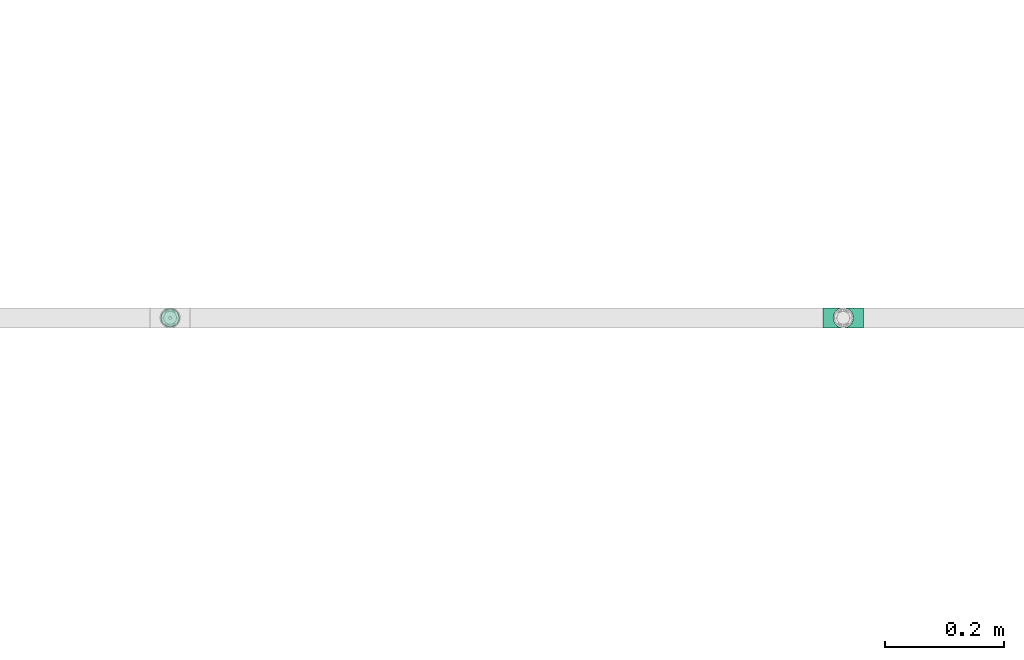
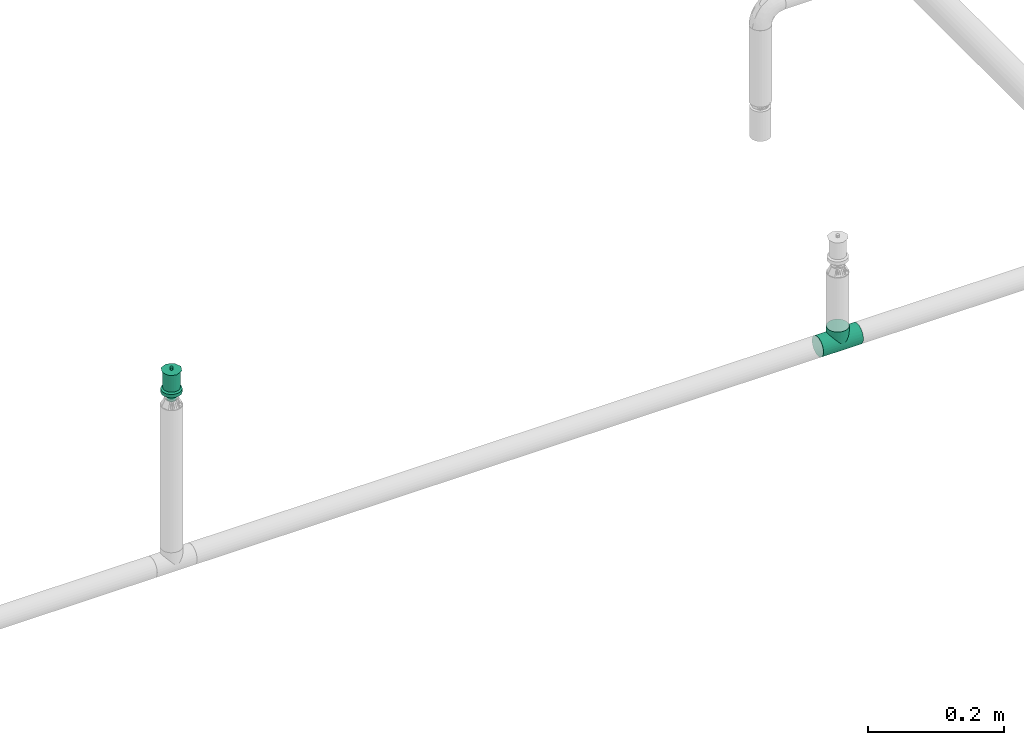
# One storey, part 30 of 157: 1 flow fitting, 1 flow terminal.
"""IFC2X3 building model written with IfcOpenShell, lengths in millimetres."""

import ifcopenshell
import ifcopenshell.guid

model = None  # the IFC model being written
_history = None  # IfcOwnerHistory: only IFC2X3 demands one
_inside = {}  # id of a spatial element -> (the spatial element, [elements in it])
_under = {}  # id of a project, library or spatial element -> (it, [spatial elements below it])
_declared = {}  # id of a project -> (the project, [libraries it declares])
_typed = {}  # id of a type object -> (the type object, [elements of that type])
_made_of = {}  # id of a material, layer set ... -> (it, [elements and type objects made of it])


def new_model(schema):
    """Start an empty IFC model of exactly this schema.

    Asked for "IFC4X3", IfcOpenShell would pick the latest addendum, in which some entities
    have other attributes; the version numbers below select the first issue.
    IFC2X3 requires an IfcOwnerHistory on every rooted entity: one is made here for all.
    """
    global model, _history
    if schema == "IFC4X3":
        model = ifcopenshell.file(schema_version=(4, 3, 0, 0))
    else:
        model = ifcopenshell.file(schema=schema)
    _inside.clear()
    _under.clear()
    _declared.clear()
    _typed.clear()
    _made_of.clear()
    _history = None
    if model.schema == "IFC2X3":
        org = make("IfcOrganization", Name="unknown")
        user = make(
            "IfcPersonAndOrganization",
            ThePerson=make("IfcPerson", FamilyName="unknown"),
            TheOrganization=org,
        )
        app = make(
            "IfcApplication",
            ApplicationDeveloper=org,
            Version="unknown",
            ApplicationFullName="unknown",
            ApplicationIdentifier="unknown",
        )
        _history = make(
            "IfcOwnerHistory",
            OwningUser=user,
            OwningApplication=app,
            ChangeAction="ADDED",
            CreationDate=0,
        )
    return model


def make(cls, **values):
    """One entity of the class cls with the attributes given. An attribute that is None is left unset."""
    return model.create_entity(
        cls, **{name: value for name, value in values.items() if value is not None}
    )


def entity(cls, *values):
    """Any entity or typed value of the class cls, its attributes in the order of the schema. None: left unset."""
    e = model.create_entity(cls)
    for i, value in enumerate(values):
        if value is not None:
            e[i] = value
    return e


def rooted(cls, **values):
    """An entity with a GlobalId (a new one), such as an element, a storey or a relation."""
    return make(cls, GlobalId=ifcopenshell.guid.new(), OwnerHistory=_history, **values)


def si_unit(unit_type, name, prefix=None):
    """IfcSIUnit, for example si_unit("LENGTHUNIT", "METRE", prefix="MILLI")."""
    return make("IfcSIUnit", UnitType=unit_type, Prefix=prefix, Name=name)


def converted_unit(unit_type, name, factor, base, dimensions=None, offset=None):
    """IfcConversionBasedUnit, such as the inch: factor (a typed value) times the base unit."""
    return make(
        "IfcConversionBasedUnit"
        if offset is None
        else "IfcConversionBasedUnitWithOffset",
        ConversionOffset=offset,
        Dimensions=None
        if dimensions is None
        else entity("IfcDimensionalExponents", *dimensions),
        UnitType=unit_type,
        Name=name,
        ConversionFactor=make(
            "IfcMeasureWithUnit", ValueComponent=factor, UnitComponent=base
        ),
    )


def derived_unit(unit_type, elements):
    """IfcDerivedUnit: a product of units, each with its exponent."""
    return make(
        "IfcDerivedUnit",
        Elements=[
            make("IfcDerivedUnitElement", Unit=unit, Exponent=power)
            for unit, power in elements
        ],
        UnitType=unit_type,
    )


def assignment(units):
    """IfcUnitAssignment: the units of a project."""
    return None if units is None else make("IfcUnitAssignment", Units=units)


def point(xyz):
    """IfcCartesianPoint."""
    return None if xyz is None else make("IfcCartesianPoint", Coordinates=xyz)


def direction(xyz):
    """IfcDirection."""
    return None if xyz is None else make("IfcDirection", DirectionRatios=xyz)


def frame(location, z_axis=None, x_axis=None):
    """IfcAxis2Placement3D, a coordinate frame: its origin and axes. An axis left out is left unset."""
    return make(
        "IfcAxis2Placement3D",
        Location=point(location),
        Axis=direction(z_axis),
        RefDirection=direction(x_axis),
    )


def origin_with_axes():
    """The frame at (0, 0, 0) with the z axis (0, 0, 1) and the x axis (1, 0, 0) written out."""
    return frame((0.0, 0.0, 0.0), z_axis=(0.0, 0.0, 1.0), x_axis=(1.0, 0.0, 0.0))


def place(relative_to, where):
    """IfcLocalPlacement: puts the frame where relative to a parent placement (None: the world)."""
    return make(
        "IfcLocalPlacement", PlacementRelTo=relative_to, RelativePlacement=where
    )


def context(
    kind, dimensions, precision=None, world=None, true_north=None, identifier=None
):
    """IfcGeometricRepresentationContext, for example the 3D "Model" context."""
    return make(
        "IfcGeometricRepresentationContext",
        ContextIdentifier=identifier,
        ContextType=kind,
        CoordinateSpaceDimension=dimensions,
        Precision=precision,
        WorldCoordinateSystem=world,
        TrueNorth=true_north,
    )


def subcontext(parent, identifier, kind, view, scale=None):
    """IfcGeometricRepresentationSubContext, for example "Body" below "Model"."""
    return make(
        "IfcGeometricRepresentationSubContext",
        ContextIdentifier=identifier,
        ContextType=kind,
        ParentContext=parent,
        TargetScale=scale,
        TargetView=view,
    )


def project(units=None, contexts=None):
    """IfcProject with its units and contexts."""
    return rooted(
        "IfcProject",
        Name="project",
        RepresentationContexts=contexts,
        UnitsInContext=assignment(units),
    )


def spatial(cls, under=None, at=None, **own):
    """A site, building, storey or space (cls), placed at a placement, below another one or the project."""
    s = rooted(cls, ObjectPlacement=at, **own)
    if under is not None:
        _under.setdefault(under.id(), (under, []))[1].append(s)
    return s


def faces_of(points, faces, orient=None, outer=None):
    """IfcFace entities. A face is a list of loops; a loop is a list of indices into points, from 0.

    orient and outer hold one flag for each loop. By default every Orientation is true, the
    first loop of a face is its IfcFaceOuterBound and the others are IfcFaceBound.
    """
    made = []
    for i, loops in enumerate(faces):
        bounds = []
        for j, loop in enumerate(loops):
            is_outer = j == 0 if outer is None else outer[i][j]
            bounds.append(
                make(
                    "IfcFaceOuterBound" if is_outer else "IfcFaceBound",
                    Bound=make("IfcPolyLoop", Polygon=[points[k] for k in loop]),
                    Orientation=True if orient is None else orient[i][j],
                )
            )
        made.append(make("IfcFace", Bounds=bounds))
    return made


def open_shell(faces, orient=None, outer=None):
    """The faces of one IfcOpenShell. surface_model builds it on its shared points."""
    return ("IfcOpenShell", faces, orient, outer)


def surface_model(cls, points, shells):
    """IfcFaceBasedSurfaceModel or IfcShellBasedSurfaceModel (cls): surfaces that need not close."""
    shared = [point(p) for p in points]
    made = [make(c, CfsFaces=faces_of(shared, fs, o, b)) for c, fs, o, b in shells]
    if cls == "IfcFaceBasedSurfaceModel":
        return make(cls, FbsmFaces=made)
    return make(cls, SbsmBoundary=made)


def shape(context_of_items, identifier, shape_type, items):
    """IfcShapeRepresentation: the items that make up one representation, for example the "Body"."""
    return make(
        "IfcShapeRepresentation",
        ContextOfItems=context_of_items,
        RepresentationIdentifier=identifier,
        RepresentationType=shape_type,
        Items=items,
    )


def source(mapping_origin, context_of_items, identifier, shape_type, items):
    """IfcRepresentationMap: a shape defined once, which mapped items show again and again."""
    return make(
        "IfcRepresentationMap",
        MappingOrigin=mapping_origin,
        MappedRepresentation=shape(context_of_items, identifier, shape_type, items),
    )


def transform(
    local_origin,
    x_axis=None,
    y_axis=None,
    z_axis=None,
    scale=None,
    scale2=None,
    scale3=None,
    uniform=True,
):
    """IfcCartesianTransformationOperator3D, or its non-uniform kind. x_axis, y_axis, z_axis: its Axis1, 2, 3."""
    if uniform:
        return make(
            "IfcCartesianTransformationOperator3D",
            Axis1=direction(x_axis),
            Axis2=direction(y_axis),
            LocalOrigin=point(local_origin),
            Scale=scale,
            Axis3=direction(z_axis),
        )
    return make(
        "IfcCartesianTransformationOperator3DnonUniform",
        Axis1=direction(x_axis),
        Axis2=direction(y_axis),
        LocalOrigin=point(local_origin),
        Scale=scale,
        Axis3=direction(z_axis),
        Scale2=scale2,
        Scale3=scale3,
    )


def mapped(mapping_source, mapping_target):
    """IfcMappedItem: shows the shape of a source again, moved by a transform."""
    return make(
        "IfcMappedItem", MappingSource=mapping_source, MappingTarget=mapping_target
    )


def made_of(thing, what):
    """Note that an element or type object is made of a material, layer set ...; save() writes the relation."""
    if what is not None:
        _made_of.setdefault(what.id(), (what, []))[1].append(thing)
    return thing


def type_object(cls, material=None, **own):
    """A type object (cls), such as IfcWallType, which elements share."""
    return made_of(rooted(cls, **own), material)


def element(
    cls,
    number,
    at=None,
    inside=None,
    cuts=None,
    type_object=None,
    material=None,
    context=None,
    identifier="Body",
    shape_type=None,
    held_by="IfcProductDefinitionShape",
    body=None,
    shapes=None,
    **own,
):
    """One element of the class cls, such as IfcWall. Its Tag is "e" and its number.

    at: its placement. inside: the storey or other place that contains it. cuts: it is an
    opening in that element (IfcRelVoidsElement). A single representation is given by context,
    identifier, shape_type and body (its items); several are given by shapes. held_by: the class
    of the entity that holds the representations. save() writes the other relations.
    """
    e = rooted(cls, Tag="e%d" % number, ObjectPlacement=at, **own)
    if body is not None:
        shapes = [shape(context, identifier, shape_type, body)]
    if shapes is not None:
        e.Representation = make(held_by, Representations=shapes)
    if inside is not None:
        _inside.setdefault(inside.id(), (inside, []))[1].append(e)
    if cuts is not None:
        rooted(
            "IfcRelVoidsElement", RelatingBuildingElement=cuts, RelatedOpeningElement=e
        )
    if type_object is not None:
        _typed.setdefault(type_object.id(), (type_object, []))[1].append(e)
    return made_of(e, material)


def aggregate(whole, parts):
    """IfcRelAggregates: a whole, such as a stair, and the parts it consists of."""
    return rooted("IfcRelAggregates", RelatingObject=whole, RelatedObjects=parts)


def save(model, path):
    """Write the relations noted so far, then the file.

    IfcRelAggregates (storeys below a building ...), IfcRelContainedInSpatialStructure (elements
    in a storey), IfcRelDefinesByType, IfcRelAssociatesMaterial and IfcRelDeclares: one each for
    every whole, place, type object, material and project.
    """
    for whole, parts in _under.values():
        aggregate(whole, parts)
    for where, things in _inside.values():
        rooted(
            "IfcRelContainedInSpatialStructure",
            RelatedElements=things,
            RelatingStructure=where,
        )
    for kind, things in _typed.values():
        rooted("IfcRelDefinesByType", RelatedObjects=things, RelatingType=kind)
    for what, things in _made_of.values():
        rooted("IfcRelAssociatesMaterial", RelatedObjects=things, RelatingMaterial=what)
    for by, libraries in _declared.values():
        rooted("IfcRelDeclares", RelatingContext=by, RelatedDefinitions=libraries)
    model.write(path)


model = new_model("IFC2X3")

# Units and contexts
model_context = context("Model", 3, precision=0.01, world=frame((0.0, 4.29681676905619e-09, 0.0)), true_north=direction((4.01073788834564e-13, 1.0)))
plan_context = context("Plan", 3, precision=0.01, world=frame((0.0, 4.29681676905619e-09, 0.0)), true_north=direction((4.01073788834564e-13, 1.0)))
body_context = subcontext(model_context, "Body", "Model", "MODEL_VIEW")
ifc_project = project(units=[converted_unit("PLANEANGLEUNIT", "DEGREE", entity("IfcPositiveLengthMeasure", 0.0174532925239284), si_unit("PLANEANGLEUNIT", "RADIAN"), dimensions=[0, 0, 0, 0, 0, 0, 0]), si_unit("AREAUNIT", "SQUARE_METRE"), si_unit("LENGTHUNIT", "METRE", prefix="MILLI"), si_unit("MASSUNIT", "GRAM", prefix="KILO"), si_unit("POWERUNIT", "WATT"), si_unit("PRESSUREUNIT", "PASCAL"), si_unit("FORCEUNIT", "NEWTON", prefix="KILO"), si_unit("ELECTRICCURRENTUNIT", "AMPERE"), si_unit("THERMODYNAMICTEMPERATUREUNIT", "DEGREE_CELSIUS"), si_unit("TIMEUNIT", "SECOND"), si_unit("VOLUMEUNIT", "CUBIC_METRE"), derived_unit("LINEARVELOCITYUNIT", [(si_unit("LENGTHUNIT", "METRE"), 1), (si_unit("TIMEUNIT", "SECOND"), -1)]), derived_unit("VOLUMETRICFLOWRATEUNIT", [(si_unit("VOLUMEUNIT", "CUBIC_METRE"), 1), (si_unit("TIMEUNIT", "SECOND"), -1)]), derived_unit("THERMALTRANSMITTANCEUNIT", [(si_unit("POWERUNIT", "WATT"), 1), (si_unit("THERMODYNAMICTEMPERATUREUNIT", "KELVIN"), -1), (si_unit("AREAUNIT", "SQUARE_METRE"), -1)])], contexts=[model_context, plan_context])

# Site, building, storey
site_placement = place(None, frame((0.0, -4.29681676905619e-09, 0.0), z_axis=(0.0, 0.0, 1.0), x_axis=(1.0, 0.0, 0.0)))
site = spatial("IfcSite", under=ifc_project, at=site_placement, CompositionType="ELEMENT")
building_placement = place(site_placement, frame((0.0, 4.29681676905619e-09, 0.0), z_axis=(0.0, 0.0, 1.0), x_axis=(1.0, 0.0, 0.0)))
building = spatial("IfcBuilding", under=site, at=building_placement, Name="mc-building", CompositionType="ELEMENT")
storey_placement = place(building_placement, frame((0.0, 0.0, 204000.0), z_axis=(0.0, 0.0, 1.0), x_axis=(1.0, 0.0, 0.0)))
storey = spatial("IfcBuildingStorey", under=building, at=storey_placement, Name="Nivå D", CompositionType="ELEMENT", Elevation=204000.0)

# Flow fitting
pipe_fitting_type = type_object("IfcPipeFittingType", Name="magi_pipe_fe_tee_centric_90_NOR", PredefinedType="JUNCTION")
shared_shape_1 = source(origin_with_axes(), body_context, "Body", "SurfaceModel", [
    surface_model("IfcShellBasedSurfaceModel", [(-33.8, 4.37404, -16.32415), (-33.8, 0.0, -16.9), (-33.8, 16.32415, -4.37404), (-33.8, 8.45, -14.63583), (-33.8, 11.9501, -11.9501), (-33.8, 14.63583, -8.45), (-33.8, -16.9, 0.0), (-33.8, -11.9501, -11.9501), (-33.8, -14.63583, -8.45), (-33.8, -8.45, -14.63583), (-33.8, -4.37404, -16.32415), (-33.8, -16.32415, -4.37404), (-33.8, 14.63583, 8.45), (-33.8, 16.32415, 4.37404), (-33.8, -8.45, 14.63583), (-33.8, 8.45, 14.63583), (-33.8, 11.9501, 11.9501), (-33.8, 4.37404, 16.32415), (-33.8, 0.0, 16.9), (-33.8, -11.9501, 11.9501), (-33.8, -14.63583, 8.45), (-33.8, -16.32415, 4.37404), (-33.8, -4.37404, 16.32415), (-33.8, 16.9, 0.0), (33.8, 4.37404, -16.32415), (33.8, -16.9, 0.0), (33.8, 0.0, -16.9), (33.8, 14.63583, -8.45), (33.8, 8.45, -14.63583), (33.8, 16.32415, -4.37404), (33.8, 11.9501, -11.9501), (33.8, -16.32415, 4.37404), (33.8, -8.45, -14.63583), (33.8, -4.37404, -16.32415), (33.8, -11.9501, -11.9501), (33.8, -14.63583, -8.45), (33.8, -16.32415, -4.37404), (33.8, 16.32415, 4.37404), (33.8, 8.45, 14.63583), (33.8, 14.63583, 8.45), (33.8, 11.9501, 11.9501), (33.8, -8.45, 14.63583), (33.8, 4.37404, 16.32415), (33.8, -14.63583, 8.45), (33.8, -11.9501, 11.9501), (33.8, 0.0, 16.9), (33.8, -4.37404, 16.32415), (33.8, 16.9, 0.0), (16.28698, -16.28698, 4.51047), (16.9, -16.9, 0.0), (14.62704, -14.62704, 8.4652), (9.47213, -9.47213, 13.99602), (12.26343, -12.26343, 11.62834), (-16.9, -16.9, 0.0), (-16.28698, -16.28698, 4.51047), (-14.62704, -14.62704, 8.4652), (-12.26343, -12.26343, 11.62834), (-9.47213, -9.47213, 13.99602), (-6.42894, -6.42894, 15.62942), (6.42894, -6.42894, 15.62942), (3.24522, -3.24522, 16.58549), (0.0, 0.0, 16.9), (-3.24522, -3.24522, 16.58549), (3.24522, -3.24522, -16.58549), (0.0, 0.0, -16.9), (-3.24522, -3.24522, -16.58549), (-6.42894, -6.42894, -15.62942), (6.42894, -6.42894, -15.62942), (9.47213, -9.47213, -13.99602), (12.26343, -12.26343, -11.62834), (14.62704, -14.62704, -8.4652), (16.28698, -16.28698, -4.51047), (-9.47213, -9.47213, -13.99602), (-12.26343, -12.26343, -11.62834), (-16.28698, -16.28698, -4.51047), (-14.62704, -14.62704, -8.4652), (4.37404, -25.35, -16.32415), (-16.9, -25.35, 0.0), (0.0, -25.35, -16.9), (14.63583, -25.35, -8.45), (8.45, -25.35, -14.63583), (16.32415, -25.35, -4.37404), (11.9501, -25.35, -11.9501), (-11.9501, -25.35, -11.9501), (-8.45, -25.35, -14.63583), (-4.37404, -25.35, -16.32415), (-14.63583, -25.35, -8.45), (-16.32415, -25.35, -4.37404), (16.9, -25.35, 0.0), (8.45, -25.35, 14.63583), (16.32415, -25.35, 4.37404), (14.63583, -25.35, 8.45), (-8.45, -25.35, 14.63583), (11.9501, -25.35, 11.9501), (4.37404, -25.35, 16.32415), (-16.32415, -25.35, 4.37404), (-11.9501, -25.35, 11.9501), (-14.63583, -25.35, 8.45), (0.0, -25.35, 16.9), (-4.37404, -25.35, 16.32415)], [open_shell([[[0, 1, 2]], [[3, 0, 4]], [[0, 2, 5]], [[4, 0, 5]], [[6, 2, 1]], [[7, 8, 9]], [[1, 10, 9]], [[11, 6, 8]], [[1, 9, 8]], [[1, 8, 6]], [[6, 12, 2]], [[12, 13, 2]], [[14, 12, 6]], [[12, 14, 15]], [[16, 12, 15]], [[17, 15, 18]], [[19, 14, 20]], [[21, 20, 14]], [[22, 18, 14]], [[14, 6, 21]], [[14, 18, 15]], [[23, 2, 13]], [[24, 25, 26]], [[27, 24, 28]], [[27, 29, 24]], [[27, 28, 30]], [[31, 25, 24]], [[26, 32, 33]], [[26, 34, 32]], [[35, 25, 36]], [[35, 34, 26]], [[25, 35, 26]], [[24, 29, 31]], [[29, 37, 38]], [[38, 37, 39]], [[38, 31, 29]], [[38, 39, 40]], [[41, 38, 42]], [[43, 41, 44]], [[41, 43, 31]], [[41, 45, 46]], [[41, 31, 38]], [[42, 45, 41]], [[29, 47, 37]], [[31, 43, 48]], [[25, 31, 49]], [[49, 31, 48]], [[43, 50, 48]], [[44, 41, 51]], [[50, 43, 52]], [[51, 52, 44]], [[52, 43, 44]], [[53, 54, 21]], [[53, 21, 6]], [[21, 54, 20]], [[54, 55, 20]], [[56, 57, 19]], [[19, 20, 56]], [[19, 57, 14]], [[56, 20, 55]], [[14, 57, 58]], [[51, 41, 59]], [[60, 45, 61]], [[59, 46, 60]], [[46, 59, 41]], [[60, 46, 45]], [[61, 45, 42]], [[39, 37, 13]], [[16, 38, 40]], [[12, 40, 39]], [[42, 38, 15]], [[23, 37, 47]], [[62, 61, 18]], [[62, 22, 58]], [[22, 62, 18]], [[58, 22, 14]], [[61, 17, 18]], [[42, 17, 61]], [[15, 17, 42]], [[15, 38, 16]], [[12, 16, 40]], [[13, 12, 39]], [[37, 23, 13]], [[5, 27, 30]], [[23, 47, 29]], [[30, 28, 3]], [[27, 2, 29]], [[26, 33, 63]], [[26, 64, 24]], [[64, 26, 63]], [[28, 24, 0]], [[64, 0, 24]], [[4, 30, 3]], [[2, 27, 5]], [[5, 30, 4]], [[2, 23, 29]], [[65, 66, 10]], [[1, 0, 64]], [[1, 65, 10]], [[66, 9, 10]], [[0, 3, 28]], [[1, 64, 65]], [[63, 33, 67]], [[32, 34, 68]], [[69, 68, 34]], [[35, 70, 69]], [[69, 34, 35]], [[32, 68, 67]], [[36, 25, 49]], [[36, 71, 35]], [[71, 36, 49]], [[35, 71, 70]], [[72, 9, 66]], [[72, 7, 9]], [[7, 72, 73]], [[7, 73, 8]], [[74, 53, 11]], [[75, 74, 8]], [[74, 11, 8]], [[11, 53, 6]], [[75, 8, 73]], [[32, 67, 33]], [[76, 77, 78]], [[79, 76, 80]], [[79, 81, 76]], [[79, 80, 82]], [[77, 76, 81]], [[78, 83, 84]], [[84, 85, 78]], [[86, 77, 87]], [[83, 78, 86]], [[77, 86, 78]], [[81, 88, 77]], [[89, 88, 90]], [[89, 90, 91]], [[92, 77, 89]], [[89, 91, 93]], [[92, 89, 94]], [[95, 96, 97]], [[96, 95, 92]], [[92, 98, 99]], [[95, 77, 92]], [[94, 98, 92]], [[89, 77, 88]], [[77, 95, 53]], [[54, 53, 95]], [[97, 96, 56]], [[96, 92, 57]], [[95, 97, 54]], [[58, 92, 99]], [[55, 54, 97]], [[56, 55, 97]], [[58, 57, 92]], [[98, 61, 62]], [[58, 99, 62]], [[56, 96, 57]], [[62, 99, 98]], [[94, 60, 98]], [[89, 59, 94]], [[91, 90, 48]], [[52, 93, 91]], [[93, 51, 89]], [[49, 90, 88]], [[59, 60, 94]], [[51, 59, 89]], [[49, 48, 90]], [[50, 52, 91]], [[48, 50, 91]], [[51, 93, 52]], [[98, 60, 61]], [[88, 81, 49]], [[71, 49, 81]], [[79, 82, 69]], [[82, 80, 68]], [[81, 79, 71]], [[67, 80, 76]], [[70, 71, 79]], [[69, 70, 79]], [[67, 68, 80]], [[78, 64, 63]], [[67, 76, 63]], [[69, 82, 68]], [[63, 76, 78]], [[85, 65, 78]], [[84, 66, 85]], [[86, 87, 74]], [[86, 73, 83]], [[72, 84, 83]], [[53, 87, 77]], [[66, 65, 85]], [[72, 66, 84]], [[53, 74, 87]], [[75, 73, 86]], [[74, 75, 86]], [[72, 83, 73]], [[78, 65, 64]]])]),
])
flow_fitting_placement = place(storey_placement, frame((530770.35, 404401.65, 2880.0), z_axis=(0.0, -1.0, 0.0), x_axis=(-1.0, 0.0, 0.0)))
element("IfcFlowFitting", 1, at=flow_fitting_placement, inside=storey, type_object=pipe_fitting_type, Name="magi_pipe_fe_tee_centric_90_NOR", context=body_context, shape_type="MappedRepresentation", body=[
    mapped(shared_shape_1, transform((0.0, 0.0, 0.0), scale=1.0)),
])

# Flow terminal
fire_suppression_terminal_type = type_object("IfcFireSuppressionTerminalType", Name="68DGR-STD-STÅENDE", PredefinedType="NOTDEFINED")
shared_shape_2 = source(origin_with_axes(), body_context, "Body", "SurfaceModel", [
    surface_model("IfcShellBasedSurfaceModel", [(3.36465, -12.55704, 51.0), (6.5, -11.25833, 51.0), (9.19239, -9.19239, 51.0), (12.55704, -3.36465, 51.0), (-11.25833, -6.5, 51.0), (11.25833, -6.5, 51.0), (-13.0, 0.0, 51.0), (0.0, -13.0, 51.0), (-6.5, -11.25833, 51.0), (-3.36465, -12.55704, 51.0), (-9.19239, -9.19239, 51.0), (-12.55704, -3.36465, 51.0), (13.0, 0.0, 51.0), (12.55704, 3.36465, 51.0), (11.25833, 6.5, 51.0), (9.19239, 9.19239, 51.0), (6.5, 11.25833, 51.0), (3.36465, 12.55704, 51.0), (0.0, 13.0, 51.0), (-3.36465, 12.55704, 51.0), (-12.55704, 3.36465, 51.0), (-9.19239, 9.19239, 51.0), (-11.25833, 6.5, 51.0), (-6.5, 11.25833, 51.0), (0.0, 13.0, 21.14766), (3.36465, 12.55704, 21.14766), (6.5, 11.25833, 21.14766), (-3.36465, 12.55704, 21.14766), (9.19239, 9.19239, 21.14766), (11.25833, 6.5, 21.14766), (12.55704, 3.36465, 21.14766), (-12.55704, 3.36465, 21.14766), (-11.25833, -6.5, 21.14766), (-9.19239, 9.19239, 21.14766), (-6.5, 11.25833, 21.14766), (-11.25833, 6.5, 21.14766), (-13.0, 0.0, 21.14766), (12.55704, -3.36465, 21.14766), (9.19239, -9.19239, 21.14766), (11.25833, -6.5, 21.14766), (6.5, -11.25833, 21.14766), (3.36465, -12.55704, 21.14766), (-6.5, -11.25833, 21.14766), (-9.19239, -9.19239, 21.14766), (-12.55704, -3.36465, 21.14766), (0.0, -13.0, 21.14766), (-3.36465, -12.55704, 21.14766), (13.0, 0.0, 21.14766), (7.24444, -1.94114, 0.1), (1.94114, -7.24444, 0.1), (3.75, -6.49519, 0.1), (5.3033, -5.3033, 0.1), (-5.3033, -5.3033, 0.1), (6.49519, -3.75, 0.1), (5.3033, 5.3033, 0.1), (0.0, -7.5, 0.1), (-3.75, -6.49519, 0.1), (-1.94114, -7.24444, 0.1), (-7.24444, -1.94114, 0.1), (-6.49519, -3.75, 0.1), (-7.24444, 1.94114, 0.1), (7.5, 0.0, 0.1), (6.49519, 3.75, 0.1), (-6.49519, 3.75, 0.1), (1.94114, 7.24444, 0.1), (0.0, 7.5, 0.1), (3.75, 6.49519, 0.1), (-7.5, 0.0, 0.1), (-5.3033, 5.3033, 0.1), (-1.94114, 7.24444, 0.1), (-3.75, 6.49519, 0.1), (7.24444, 1.94114, 0.1), (1.94114, 7.24444, -0.1), (-6.49519, 3.75, -0.1), (0.0, 7.5, -0.1), (5.3033, 5.3033, -0.1), (3.75, 6.49519, -0.1), (6.49519, 3.75, -0.1), (7.24444, 1.94114, -0.1), (-1.94114, 7.24444, -0.1), (-5.3033, 5.3033, -0.1), (-3.75, 6.49519, -0.1), (-7.24444, 1.94114, -0.1), (-7.24444, -1.94114, -0.1), (-7.5, 0.0, -0.1), (7.5, 0.0, -0.1), (7.24444, -1.94114, -0.1), (-5.3033, -5.3033, -0.1), (1.94114, -7.24444, -0.1), (6.49519, -3.75, -0.1), (5.3033, -5.3033, -0.1), (3.75, -6.49519, -0.1), (-6.49519, -3.75, -0.1), (-3.75, -6.49519, -0.1), (0.0, -7.5, -0.1), (-1.94114, -7.24444, -0.1), (0.0, -2.5, 51.0), (-2.5, 0.0, 51.0), (0.0, 2.5, 51.0), (2.5, 0.0, 51.0), (0.0, -16.0, 53.0), (11.31371, -11.31371, 53.0), (-11.31371, -11.31371, 53.0), (-16.0, 0.0, 53.0), (16.0, 0.0, 53.0), (11.31371, 11.31371, 53.0), (0.0, 16.0, 53.0), (-11.31371, 11.31371, 53.0), (1.25, -2.16506, 57.0), (0.0, -2.5, 57.0), (0.64705, -2.41481, 57.0), (2.41481, -0.64705, 57.0), (1.76777, -1.76777, 57.0), (-2.41481, -0.64705, 57.0), (-2.5, 0.0, 57.0), (2.16506, -1.25, 57.0), (-1.25, -2.16506, 57.0), (-0.64705, -2.41481, 57.0), (-1.76777, -1.76777, 57.0), (-2.16506, -1.25, 57.0), (2.5, 0.0, 57.0), (2.41481, 0.64705, 57.0), (2.16506, 1.25, 57.0), (1.76777, 1.76777, 57.0), (0.64705, 2.41481, 57.0), (1.25, 2.16506, 57.0), (-1.76777, 1.76777, 57.0), (0.0, 2.5, 57.0), (-2.16506, 1.25, 57.0), (-2.41481, 0.64705, 57.0), (-0.64705, 2.41481, 57.0), (-1.25, 2.16506, 57.0), (1.25, 2.16506, 51.0), (1.76777, 1.76777, 51.0), (1.15, 1.99186, 51.0), (0.59528, 2.22163, 51.0), (0.64705, 2.41481, 51.0), (0.0, 2.3, 51.0), (1.62635, 1.62635, 51.0), (2.41481, 0.64705, 51.0), (2.3, 0.0, 51.0), (2.22163, 0.59528, 51.0), (2.16506, 1.25, 51.0), (1.99186, 1.15, 51.0), (-0.59528, 2.22163, 51.0), (-0.64705, 2.41481, 51.0), (-1.15, 1.99186, 51.0), (-1.76777, 1.76777, 51.0), (-1.25, 2.16506, 51.0), (-1.62635, 1.62635, 51.0), (-1.99186, 1.15, 51.0), (-2.16506, 1.25, 51.0), (-2.22163, 0.59528, 51.0), (-2.41481, 0.64705, 51.0), (-2.3, 0.0, 51.0), (2.41481, -0.64705, 51.0), (2.22163, -0.59528, 51.0), (1.99186, -1.15, 51.0), (2.16506, -1.25, 51.0), (1.62635, -1.62635, 51.0), (1.76777, -1.76777, 51.0), (1.25, -2.16506, 51.0), (1.15, -1.99186, 51.0), (0.59528, -2.22163, 51.0), (0.64705, -2.41481, 51.0), (0.0, -2.3, 51.0), (-2.16506, -1.25, 51.0), (-1.99186, -1.15, 51.0), (-1.76777, -1.76777, 51.0), (-1.62635, -1.62635, 51.0), (-2.41481, -0.64705, 51.0), (-2.22163, -0.59528, 51.0), (-0.59528, -2.22163, 51.0), (-0.64705, -2.41481, 51.0), (-1.15, -1.99186, 51.0), (-1.25, -2.16506, 51.0), (1.62635, -1.62635, 56.8), (1.15, -1.99186, 56.8), (0.59528, -2.22163, 56.8), (0.0, -2.3, 56.8), (2.22163, 0.59528, 56.8), (1.99186, -1.15, 56.8), (2.22163, -0.59528, 56.8), (-0.59528, -2.22163, 56.8), (-1.15, -1.99186, 56.8), (-1.62635, -1.62635, 56.8), (-1.99186, -1.15, 56.8), (-2.22163, -0.59528, 56.8), (-1.99186, 1.15, 56.8), (2.3, 0.0, 56.8), (1.62635, 1.62635, 56.8), (1.99186, 1.15, 56.8), (1.15, 1.99186, 56.8), (0.0, 2.3, 56.8), (0.59528, 2.22163, 56.8), (-2.22163, 0.59528, 56.8), (-2.3, 0.0, 56.8), (-1.15, 1.99186, 56.8), (-0.59528, 2.22163, 56.8), (-1.62635, 1.62635, 56.8), (4.1411, -15.45481, 19.0), (8.0, -13.85641, 19.0), (11.31371, -11.31371, 19.0), (-8.0, -13.85641, 19.0), (15.45481, -4.1411, 19.0), (16.0, 0.0, 19.0), (13.85641, -8.0, 19.0), (0.0, -16.0, 19.0), (-4.1411, -15.45481, 19.0), (-13.85641, -8.0, 19.0), (-11.31371, -11.31371, 19.0), (-15.45481, -4.1411, 19.0), (15.45481, 4.1411, 19.0), (13.85641, 8.0, 19.0), (11.31371, 11.31371, 19.0), (-4.1411, 15.45481, 19.0), (8.0, 13.85641, 19.0), (4.1411, 15.45481, 19.0), (0.0, 16.0, 19.0), (-13.85641, 8.0, 19.0), (-15.45481, 4.1411, 19.0), (-16.0, 0.0, 19.0), (-11.31371, 11.31371, 19.0), (-8.0, 13.85641, 19.0), (0.0, 16.0, 13.0), (4.1411, 15.45481, 13.0), (8.0, 13.85641, 13.0), (-4.1411, 15.45481, 13.0), (11.31371, 11.31371, 13.0), (13.85641, 8.0, 13.0), (15.45481, 4.1411, 13.0), (-15.45481, -4.1411, 13.0), (-11.31371, 11.31371, 13.0), (-8.0, 13.85641, 13.0), (-13.85641, 8.0, 13.0), (-15.45481, 4.1411, 13.0), (-16.0, 0.0, 13.0), (4.1411, -15.45481, 13.0), (16.0, 0.0, 13.0), (15.45481, -4.1411, 13.0), (13.85641, -8.0, 13.0), (11.31371, -11.31371, 13.0), (8.0, -13.85641, 13.0), (-8.0, -13.85641, 13.0), (-13.85641, -8.0, 13.0), (-11.31371, -11.31371, 13.0), (0.0, -16.0, 13.0), (-4.1411, -15.45481, 13.0), (7.24444, -1.94114, 13.0), (1.94114, -7.24444, 13.0), (3.75, -6.49519, 13.0), (5.3033, -5.3033, 13.0), (-5.3033, -5.3033, 13.0), (6.49519, -3.75, 13.0), (5.3033, 5.3033, 13.0), (0.0, -7.5, 13.0), (-3.75, -6.49519, 13.0), (-1.94114, -7.24444, 13.0), (-7.24444, -1.94114, 13.0), (-6.49519, -3.75, 13.0), (-7.24444, 1.94114, 13.0), (7.5, 0.0, 13.0), (6.49519, 3.75, 13.0), (-6.49519, 3.75, 13.0), (1.94114, 7.24444, 13.0), (0.0, 7.5, 13.0), (3.75, 6.49519, 13.0), (-7.5, 0.0, 13.0), (-5.3033, 5.3033, 13.0), (-1.94114, 7.24444, 13.0), (-3.75, 6.49519, 13.0), (7.24444, 1.94114, 13.0), (3.75, 6.49519, 0.0), (5.3033, 5.3033, 0.0), (3.65, 6.32199, 0.0), (1.88938, 7.05126, 0.0), (0.0, 7.3, 0.0), (1.94114, 7.24444, 0.0), (0.0, 7.5, 0.0), (5.16188, 5.16188, 0.0), (7.24444, 1.94114, 0.0), (7.3, 0.0, 0.0), (7.05126, 1.88938, 0.0), (7.5, 0.0, 0.0), (6.49519, 3.75, 0.0), (6.32199, 3.65, 0.0), (-1.88938, 7.05126, 0.0), (-1.94114, 7.24444, 0.0), (-3.65, 6.32199, 0.0), (-5.3033, 5.3033, 0.0), (-3.75, 6.49519, 0.0), (-5.16188, 5.16188, 0.0), (-6.32199, 3.65, 0.0), (-6.49519, 3.75, 0.0), (-7.05126, 1.88938, 0.0), (-7.24444, 1.94114, 0.0), (-7.3, 0.0, 0.0), (-7.5, 0.0, 0.0), (7.24444, -1.94114, 0.0), (7.05126, -1.88938, 0.0), (6.32199, -3.65, 0.0), (6.49519, -3.75, 0.0), (5.16188, -5.16188, 0.0), (5.3033, -5.3033, 0.0), (3.75, -6.49519, 0.0), (3.65, -6.32199, 0.0), (1.88938, -7.05126, 0.0), (1.94114, -7.24444, 0.0), (0.0, -7.3, 0.0), (0.0, -7.5, 0.0), (-6.49519, -3.75, 0.0), (-6.32199, -3.65, 0.0), (-5.3033, -5.3033, 0.0), (-5.16188, -5.16188, 0.0), (-7.24444, -1.94114, 0.0), (-7.05126, -1.88938, 0.0), (-1.88938, -7.05126, 0.0), (-1.94114, -7.24444, 0.0), (-3.65, -6.32199, 0.0), (-3.75, -6.49519, 0.0), (1.88938, -7.05126, 12.8), (0.0, -7.3, 12.8), (3.65, -6.32199, 12.8), (5.16188, -5.16188, 12.8), (6.32199, -3.65, 12.8), (7.05126, 1.88938, 12.8), (7.05126, -1.88938, 12.8), (-5.16188, -5.16188, 12.8), (-1.88938, -7.05126, 12.8), (-3.65, -6.32199, 12.8), (-6.32199, -3.65, 12.8), (-7.05126, -1.88938, 12.8), (0.0, 7.3, 12.8), (7.3, 0.0, 12.8), (6.32199, 3.65, 12.8), (5.16188, 5.16188, 12.8), (3.65, 6.32199, 12.8), (1.88938, 7.05126, 12.8), (-6.32199, 3.65, 12.8), (-7.05126, 1.88938, 12.8), (-7.3, 0.0, 12.8), (-3.65, 6.32199, 12.8), (-1.88938, 7.05126, 12.8), (-5.16188, 5.16188, 12.8)], [open_shell([[[0, 1, 2]], [[0, 2, 3]], [[0, 3, 4]], [[3, 2, 5]], [[6, 4, 3]], [[7, 8, 9]], [[7, 0, 8]], [[8, 4, 10]], [[0, 4, 8]], [[4, 6, 11]], [[6, 3, 12]], [[13, 14, 15]], [[6, 13, 15]], [[16, 17, 18]], [[15, 16, 19]], [[18, 19, 16]], [[20, 21, 22]], [[20, 6, 15]], [[21, 19, 23]], [[19, 21, 20]], [[15, 19, 20]], [[13, 6, 12]], [[24, 25, 26]], [[27, 24, 26]], [[28, 29, 30]], [[26, 28, 31]], [[28, 32, 31]], [[27, 33, 34]], [[33, 27, 31]], [[33, 31, 35]], [[27, 26, 31]], [[31, 32, 36]], [[32, 28, 30]], [[32, 30, 37]], [[38, 37, 39]], [[38, 40, 41]], [[38, 41, 37]], [[32, 37, 41]], [[32, 42, 43]], [[44, 36, 32]], [[42, 45, 46]], [[42, 32, 41]], [[45, 42, 41]], [[30, 47, 37]], [[4, 32, 43]], [[8, 42, 46]], [[43, 42, 10]], [[9, 46, 45]], [[36, 11, 6]], [[11, 36, 44]], [[11, 44, 4]], [[44, 32, 4]], [[43, 10, 4]], [[8, 10, 42]], [[46, 9, 8]], [[45, 7, 9]], [[0, 41, 40]], [[38, 1, 40]], [[5, 39, 37]], [[38, 39, 2]], [[3, 37, 47]], [[41, 0, 7]], [[40, 1, 0]], [[38, 2, 1]], [[39, 5, 2]], [[3, 5, 37]], [[47, 12, 3]], [[41, 7, 45]], [[30, 13, 47]], [[29, 14, 30]], [[25, 24, 17]], [[15, 29, 28]], [[30, 14, 13]], [[13, 12, 47]], [[16, 26, 17]], [[16, 15, 28]], [[26, 25, 17]], [[15, 14, 29]], [[28, 26, 16]], [[24, 18, 17]], [[19, 27, 34]], [[33, 23, 34]], [[22, 35, 31]], [[33, 35, 21]], [[20, 31, 36]], [[27, 19, 18]], [[34, 23, 19]], [[33, 21, 23]], [[35, 22, 21]], [[20, 22, 31]], [[36, 6, 20]], [[27, 18, 24]], [[48, 49, 50]], [[48, 50, 51]], [[49, 48, 52]], [[48, 51, 53]], [[54, 52, 48]], [[55, 56, 57]], [[56, 55, 52]], [[52, 58, 59]], [[52, 55, 49]], [[52, 60, 58]], [[54, 48, 61]], [[62, 54, 61]], [[54, 63, 52]], [[64, 65, 54]], [[64, 54, 66]], [[63, 54, 65]], [[63, 60, 52]], [[67, 58, 60]], [[68, 69, 70]], [[69, 68, 63]], [[69, 63, 65]], [[71, 62, 61]], [[72, 73, 74]], [[75, 72, 76]], [[75, 77, 78]], [[72, 75, 73]], [[78, 73, 75]], [[79, 80, 81]], [[80, 79, 73]], [[74, 73, 79]], [[78, 82, 73]], [[82, 83, 84]], [[82, 78, 85]], [[86, 87, 85]], [[88, 86, 89]], [[90, 91, 88]], [[90, 88, 89]], [[87, 86, 88]], [[83, 87, 92]], [[83, 85, 87]], [[93, 94, 95]], [[94, 93, 87]], [[88, 94, 87]], [[85, 83, 82]], [[83, 58, 84]], [[92, 59, 83]], [[56, 87, 93]], [[92, 87, 52]], [[57, 93, 95]], [[83, 59, 58]], [[58, 67, 84]], [[57, 56, 93]], [[52, 87, 56]], [[52, 59, 92]], [[55, 57, 95]], [[95, 94, 55]], [[88, 49, 94]], [[91, 50, 88]], [[53, 90, 89]], [[91, 90, 51]], [[48, 89, 86]], [[91, 51, 50]], [[50, 49, 88]], [[61, 48, 86]], [[53, 89, 48]], [[53, 51, 90]], [[85, 61, 86]], [[94, 49, 55]], [[78, 71, 85]], [[77, 62, 78]], [[66, 75, 76]], [[77, 75, 54]], [[64, 76, 72]], [[78, 62, 71]], [[71, 61, 85]], [[64, 66, 76]], [[54, 75, 66]], [[54, 62, 77]], [[65, 64, 72]], [[72, 74, 65]], [[79, 69, 74]], [[81, 70, 79]], [[63, 80, 73]], [[81, 80, 68]], [[60, 73, 82]], [[81, 68, 70]], [[70, 69, 79]], [[67, 60, 82]], [[63, 73, 60]], [[63, 68, 80]], [[84, 67, 82]], [[74, 69, 65]], [[96, 97, 98]], [[98, 99, 96]], [[100, 101, 102]], [[103, 102, 101]], [[101, 104, 103]], [[104, 105, 106]], [[107, 103, 106]], [[106, 103, 104]], [[99, 98, 105]], [[105, 104, 99]], [[98, 106, 105]], [[98, 107, 106]], [[107, 98, 97]], [[103, 107, 97]], [[97, 96, 102]], [[102, 103, 97]], [[96, 100, 102]], [[96, 101, 100]], [[101, 96, 99]], [[104, 101, 99]], [[108, 109, 110]], [[111, 108, 112]], [[113, 108, 114]], [[111, 112, 115]], [[108, 111, 114]], [[109, 116, 117]], [[116, 109, 118]], [[118, 113, 119]], [[118, 109, 108]], [[108, 113, 118]], [[111, 120, 114]], [[121, 122, 123]], [[114, 121, 123]], [[114, 123, 124]], [[124, 123, 125]], [[126, 124, 127]], [[124, 128, 129]], [[129, 114, 124]], [[126, 130, 131]], [[128, 124, 126]], [[130, 126, 127]], [[121, 114, 120]], [[132, 133, 134]], [[132, 134, 135]], [[136, 135, 137]], [[135, 136, 132]], [[136, 137, 98]], [[134, 133, 138]], [[139, 140, 141]], [[140, 139, 99]], [[139, 141, 142]], [[138, 142, 143]], [[142, 138, 133]], [[143, 142, 141]], [[98, 144, 145]], [[98, 137, 144]], [[145, 144, 146]], [[147, 148, 149]], [[146, 148, 145]], [[149, 148, 146]], [[150, 151, 147]], [[151, 150, 152]], [[150, 147, 149]], [[153, 152, 154]], [[152, 153, 151]], [[153, 154, 97]], [[99, 155, 156]], [[156, 155, 157]], [[157, 158, 159]], [[158, 157, 155]], [[159, 158, 160]], [[160, 161, 162]], [[162, 161, 163]], [[163, 164, 165]], [[164, 163, 161]], [[165, 164, 96]], [[162, 159, 160]], [[166, 167, 168]], [[168, 167, 169]], [[167, 166, 170]], [[97, 171, 170]], [[170, 171, 167]], [[97, 154, 171]], [[172, 96, 173]], [[172, 173, 174]], [[169, 175, 168]], [[175, 169, 174]], [[175, 174, 173]], [[165, 96, 172]], [[156, 140, 99]], [[170, 113, 97]], [[166, 119, 170]], [[116, 168, 175]], [[166, 168, 118]], [[117, 175, 173]], [[170, 119, 113]], [[113, 114, 97]], [[117, 116, 175]], [[118, 168, 116]], [[118, 119, 166]], [[109, 117, 173]], [[173, 96, 109]], [[164, 110, 96]], [[161, 108, 164]], [[115, 160, 158]], [[161, 160, 112]], [[111, 158, 155]], [[161, 112, 108]], [[108, 110, 164]], [[120, 111, 155]], [[115, 158, 111]], [[115, 112, 160]], [[99, 120, 155]], [[96, 110, 109]], [[139, 121, 99]], [[142, 122, 139]], [[125, 133, 132]], [[142, 133, 123]], [[124, 132, 136]], [[139, 122, 121]], [[121, 120, 99]], [[124, 125, 132]], [[123, 133, 125]], [[123, 122, 142]], [[127, 124, 136]], [[136, 98, 127]], [[145, 130, 98]], [[148, 131, 145]], [[128, 147, 151]], [[148, 147, 126]], [[129, 151, 153]], [[148, 126, 131]], [[131, 130, 145]], [[114, 129, 153]], [[128, 151, 129]], [[128, 126, 147]], [[97, 114, 153]], [[98, 130, 127]], [[176, 177, 178]], [[176, 178, 179]], [[180, 176, 179]], [[181, 176, 182]], [[180, 182, 176]], [[183, 184, 179]], [[185, 179, 184]], [[186, 187, 185]], [[185, 187, 188]], [[179, 185, 188]], [[189, 182, 180]], [[190, 191, 180]], [[192, 190, 180]], [[193, 194, 192]], [[180, 193, 192]], [[188, 193, 180]], [[195, 188, 196]], [[196, 188, 187]], [[197, 198, 199]], [[188, 199, 198]], [[188, 198, 193]], [[180, 179, 188]], [[154, 187, 171]], [[171, 186, 167]], [[174, 169, 184]], [[185, 169, 167]], [[172, 174, 183]], [[187, 186, 171]], [[154, 196, 187]], [[174, 184, 183]], [[184, 169, 185]], [[167, 186, 185]], [[172, 183, 179]], [[179, 165, 172]], [[165, 178, 163]], [[163, 177, 162]], [[157, 159, 181]], [[176, 159, 162]], [[156, 157, 182]], [[177, 176, 162]], [[163, 178, 177]], [[156, 182, 189]], [[182, 157, 181]], [[159, 176, 181]], [[156, 189, 140]], [[179, 178, 165]], [[140, 180, 141]], [[141, 191, 143]], [[134, 138, 192]], [[190, 138, 143]], [[135, 134, 194]], [[180, 191, 141]], [[140, 189, 180]], [[134, 192, 194]], [[192, 138, 190]], [[143, 191, 190]], [[135, 194, 193]], [[193, 137, 135]], [[137, 198, 144]], [[144, 197, 146]], [[150, 149, 188]], [[199, 149, 146]], [[152, 150, 195]], [[197, 199, 146]], [[144, 198, 197]], [[152, 195, 196]], [[195, 150, 188]], [[149, 199, 188]], [[152, 196, 154]], [[193, 198, 137]], [[200, 201, 202]], [[203, 200, 202]], [[204, 205, 202]], [[204, 202, 206]], [[203, 202, 205]], [[207, 203, 208]], [[207, 200, 203]], [[203, 209, 210]], [[209, 203, 211]], [[205, 211, 203]], [[205, 212, 211]], [[212, 213, 214]], [[215, 212, 214]], [[216, 217, 218]], [[214, 216, 215]], [[218, 215, 216]], [[211, 219, 220]], [[221, 211, 220]], [[222, 215, 223]], [[215, 222, 219]], [[219, 211, 215]], [[211, 212, 215]], [[224, 225, 226]], [[227, 224, 226]], [[228, 229, 230]], [[227, 226, 228]], [[227, 228, 231]], [[227, 232, 233]], [[232, 227, 234]], [[234, 231, 235]], [[231, 234, 227]], [[235, 231, 236]], [[228, 230, 231]], [[237, 238, 239]], [[237, 239, 240]], [[241, 242, 237]], [[241, 237, 240]], [[238, 237, 243]], [[244, 243, 245]], [[243, 244, 231]], [[243, 246, 247]], [[243, 231, 238]], [[237, 246, 243]], [[238, 231, 230]], [[231, 211, 236]], [[244, 209, 231]], [[203, 245, 243]], [[244, 245, 210]], [[208, 243, 247]], [[231, 209, 211]], [[211, 221, 236]], [[208, 203, 243]], [[210, 245, 203]], [[210, 209, 244]], [[207, 208, 247]], [[247, 246, 207]], [[237, 200, 246]], [[242, 201, 237]], [[206, 241, 240]], [[242, 241, 202]], [[204, 240, 239]], [[242, 202, 201]], [[201, 200, 237]], [[205, 204, 239]], [[206, 240, 204]], [[206, 202, 241]], [[238, 205, 239]], [[246, 200, 207]], [[230, 212, 238]], [[229, 213, 230]], [[216, 228, 226]], [[229, 228, 214]], [[217, 226, 225]], [[230, 213, 212]], [[212, 205, 238]], [[217, 216, 226]], [[214, 228, 216]], [[214, 213, 229]], [[218, 217, 225]], [[225, 224, 218]], [[227, 215, 224]], [[233, 223, 227]], [[219, 232, 234]], [[233, 232, 222]], [[220, 234, 235]], [[233, 222, 223]], [[223, 215, 227]], [[221, 220, 235]], [[219, 234, 220]], [[219, 222, 232]], [[236, 221, 235]], [[224, 215, 218]], [[248, 249, 250]], [[248, 250, 251]], [[249, 248, 252]], [[248, 251, 253]], [[254, 252, 248]], [[255, 256, 257]], [[256, 255, 252]], [[252, 258, 259]], [[252, 255, 249]], [[252, 260, 258]], [[254, 248, 261]], [[262, 254, 261]], [[254, 263, 252]], [[264, 265, 254]], [[264, 254, 266]], [[263, 254, 265]], [[263, 260, 252]], [[267, 258, 260]], [[268, 269, 270]], [[269, 268, 263]], [[269, 263, 265]], [[271, 262, 261]], [[272, 273, 274]], [[272, 274, 275]], [[276, 277, 275]], [[277, 276, 278]], [[275, 277, 272]], [[274, 273, 279]], [[280, 281, 282]], [[281, 280, 283]], [[280, 282, 284]], [[279, 284, 285]], [[284, 279, 273]], [[285, 284, 282]], [[278, 286, 287]], [[287, 286, 288]], [[289, 290, 291]], [[288, 290, 287]], [[288, 291, 290]], [[278, 276, 286]], [[292, 293, 289]], [[293, 292, 294]], [[292, 289, 291]], [[295, 294, 296]], [[294, 295, 293]], [[295, 296, 297]], [[283, 298, 299]], [[299, 298, 300]], [[300, 301, 302]], [[301, 300, 298]], [[302, 301, 303]], [[303, 304, 305]], [[305, 304, 306]], [[306, 307, 308]], [[307, 306, 304]], [[308, 307, 309]], [[305, 302, 303]], [[310, 311, 312]], [[312, 311, 313]], [[311, 310, 314]], [[297, 315, 314]], [[314, 315, 311]], [[297, 296, 315]], [[316, 309, 317]], [[316, 317, 318]], [[313, 319, 312]], [[313, 318, 319]], [[319, 318, 317]], [[308, 309, 316]], [[299, 281, 283]], [[314, 258, 297]], [[310, 259, 314]], [[256, 312, 319]], [[310, 312, 252]], [[257, 319, 317]], [[314, 259, 258]], [[258, 267, 297]], [[257, 256, 319]], [[252, 312, 256]], [[252, 259, 310]], [[255, 257, 317]], [[317, 309, 255]], [[307, 249, 309]], [[304, 250, 307]], [[253, 303, 301]], [[304, 303, 251]], [[248, 301, 298]], [[304, 251, 250]], [[250, 249, 307]], [[261, 248, 298]], [[253, 301, 248]], [[253, 251, 303]], [[283, 261, 298]], [[309, 249, 255]], [[280, 271, 283]], [[284, 262, 280]], [[266, 273, 272]], [[284, 273, 254]], [[264, 272, 277]], [[280, 262, 271]], [[271, 261, 283]], [[264, 266, 272]], [[254, 273, 266]], [[254, 262, 284]], [[265, 264, 277]], [[277, 278, 265]], [[287, 269, 278]], [[290, 270, 287]], [[263, 289, 293]], [[290, 289, 268]], [[260, 293, 295]], [[290, 268, 270]], [[270, 269, 287]], [[267, 260, 295]], [[263, 293, 260]], [[263, 268, 289]], [[297, 267, 295]], [[278, 269, 265]], [[320, 321, 322]], [[323, 322, 324]], [[325, 326, 322]], [[324, 322, 326]], [[322, 327, 325]], [[328, 329, 321]], [[327, 321, 329]], [[330, 331, 327]], [[322, 321, 327]], [[331, 332, 327]], [[326, 325, 333]], [[334, 325, 332]], [[335, 334, 336]], [[332, 337, 336]], [[334, 332, 336]], [[331, 338, 332]], [[339, 338, 340]], [[340, 338, 331]], [[341, 342, 343]], [[332, 338, 343]], [[332, 343, 342]], [[332, 325, 327]], [[296, 331, 315]], [[315, 330, 311]], [[318, 313, 329]], [[327, 313, 311]], [[316, 318, 328]], [[331, 330, 315]], [[296, 340, 331]], [[318, 329, 328]], [[329, 313, 327]], [[311, 330, 327]], [[316, 328, 321]], [[321, 308, 316]], [[308, 320, 306]], [[306, 322, 305]], [[300, 302, 324]], [[323, 302, 305]], [[299, 300, 326]], [[322, 323, 305]], [[306, 320, 322]], [[299, 326, 333]], [[326, 300, 324]], [[302, 323, 324]], [[299, 333, 281]], [[321, 320, 308]], [[281, 325, 282]], [[282, 334, 285]], [[274, 279, 336]], [[335, 279, 285]], [[275, 274, 337]], [[325, 334, 282]], [[281, 333, 325]], [[274, 336, 337]], [[336, 279, 335]], [[285, 334, 335]], [[275, 337, 332]], [[332, 276, 275]], [[276, 342, 286]], [[286, 341, 288]], [[292, 291, 338]], [[343, 291, 288]], [[294, 292, 339]], [[341, 343, 288]], [[286, 342, 341]], [[294, 339, 340]], [[339, 292, 338]], [[291, 343, 338]], [[294, 340, 296]], [[332, 342, 276]]])]),
])
flow_terminal_placement = place(storey_placement, frame((529640.35, 404401.65, 3169.5), z_axis=(0.0, 0.0, 1.0), x_axis=(1.0, 0.0, 0.0)))
element("IfcFlowTerminal", 2, at=flow_terminal_placement, inside=storey, type_object=fire_suppression_terminal_type, Name="68DGR-STD-STÅENDE", context=body_context, shape_type="MappedRepresentation", body=[
    mapped(shared_shape_2, transform((0.0, 0.0, 0.0), scale=1.0)),
])

save(model, "model.ifc")
